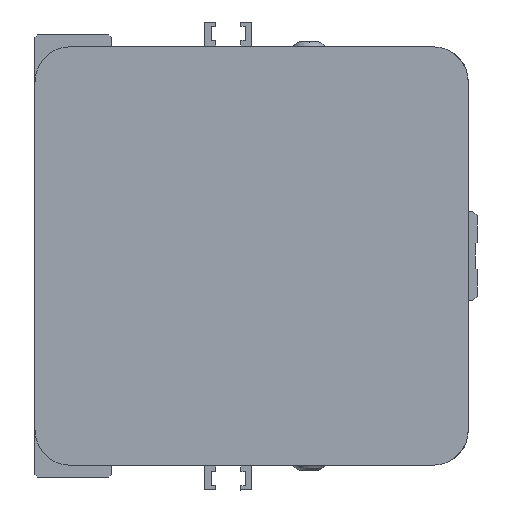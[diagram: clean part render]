
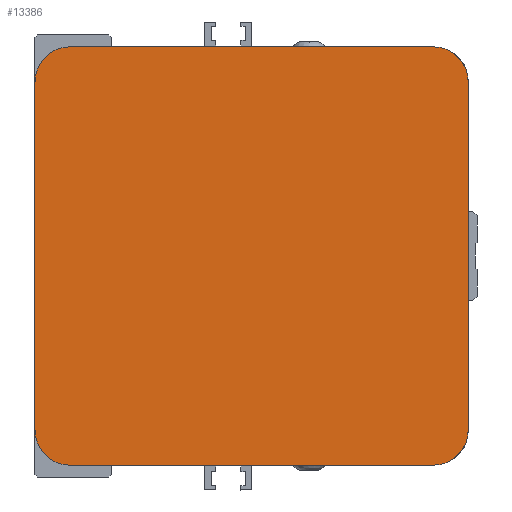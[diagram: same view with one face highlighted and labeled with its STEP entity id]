
A CAD part, left-side view. The second image highlights one B-rep face of the part: STEP entity #13386.
In plain terms, the highlighted planar face has unit normal (-1, 0, 0) as drawn and (0, 0, -1) by its records, which use the part's own axes.
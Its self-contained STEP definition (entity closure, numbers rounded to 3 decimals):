
#956=CIRCLE('',#14319,6.);
#957=CIRCLE('',#14324,6.);
#965=CIRCLE('',#14335,6.);
#966=CIRCLE('',#14337,6.);
#1612=FACE_OUTER_BOUND('',#2419,.T.);
#2419=EDGE_LOOP('',(#9310,#9311,#9312,#9313,#9314,#9315,#9316,#9317));
#3493=LINE('',#18694,#4741);
#3498=LINE('',#18705,#4746);
#3505=LINE('',#18720,#4753);
#3509=LINE('',#18805,#4757);
#4741=VECTOR('',#15465,61.5);
#4746=VECTOR('',#15476,59.);
#4753=VECTOR('',#15493,61.5);
#4757=VECTOR('',#15519,59.);
#5982=VERTEX_POINT('',#18690);
#5984=VERTEX_POINT('',#18693);
#5985=VERTEX_POINT('',#18698);
#5987=VERTEX_POINT('',#18704);
#5989=VERTEX_POINT('',#18715);
#5990=VERTEX_POINT('',#18719);
#5999=VERTEX_POINT('',#18800);
#6000=VERTEX_POINT('',#18804);
#7325=EDGE_CURVE('',#5984,#5982,#3493,.T.);
#7328=EDGE_CURVE('',#5984,#5985,#956,.T.);
#7331=EDGE_CURVE('',#5987,#5985,#3498,.T.);
#7337=EDGE_CURVE('',#5987,#5989,#957,.T.);
#7339=EDGE_CURVE('',#5990,#5989,#3505,.T.);
#7352=EDGE_CURVE('',#5999,#5982,#965,.T.);
#7353=EDGE_CURVE('',#5999,#6000,#3509,.T.);
#7354=EDGE_CURVE('',#5990,#6000,#966,.T.);
#9310=ORIENTED_EDGE('',*,*,#7337,.F.);
#9311=ORIENTED_EDGE('',*,*,#7331,.T.);
#9312=ORIENTED_EDGE('',*,*,#7328,.F.);
#9313=ORIENTED_EDGE('',*,*,#7325,.T.);
#9314=ORIENTED_EDGE('',*,*,#7352,.F.);
#9315=ORIENTED_EDGE('',*,*,#7353,.T.);
#9316=ORIENTED_EDGE('',*,*,#7354,.F.);
#9317=ORIENTED_EDGE('',*,*,#7339,.T.);
#12889=PLANE('',#14336);
#13386=ADVANCED_FACE('',(#1612),#12889,.F.);
#14319=AXIS2_PLACEMENT_3D('',#18699,#15470,#15471);
#14324=AXIS2_PLACEMENT_3D('',#18716,#15488,#15489);
#14335=AXIS2_PLACEMENT_3D('',#18802,#15515,#15516);
#14336=AXIS2_PLACEMENT_3D('',#18803,#15517,#15518);
#14337=AXIS2_PLACEMENT_3D('',#18806,#15520,#15521);
#15465=DIRECTION('',(0.,-1.,0.));
#15470=DIRECTION('center_axis',(0.,0.,
1.));
#15471=DIRECTION('ref_axis',(0.707,0.707,0.));
#15476=DIRECTION('',(1.,0.,0.));
#15488=DIRECTION('center_axis',(0.,0.,
1.));
#15489=DIRECTION('ref_axis',(-0.707,0.707,0.));
#15493=DIRECTION('',(0.,1.,0.));
#15515=DIRECTION('center_axis',(0.,0.,
1.));
#15516=DIRECTION('ref_axis',(0.707,-0.707,0.));
#15517=DIRECTION('center_axis',(0.,0.,
1.));
#15518=DIRECTION('ref_axis',(1.,0.,0.));
#15519=DIRECTION('',(-1.,0.,0.));
#15520=DIRECTION('center_axis',(0.,0.,
1.));
#15521=DIRECTION('ref_axis',(-0.707,-0.707,0.));
#18690=CARTESIAN_POINT('',(75.2,7.5,-257.));
#18693=CARTESIAN_POINT('',(75.2,69.,-257.));
#18694=CARTESIAN_POINT('',(75.2,69.,-257.));
#18698=CARTESIAN_POINT('',(69.2,75.,-257.));
#18699=CARTESIAN_POINT('Origin',(69.2,69.,-257.));
#18704=CARTESIAN_POINT('',(10.2,75.,-257.));
#18705=CARTESIAN_POINT('',(10.2,75.,-257.));
#18715=CARTESIAN_POINT('',(4.2,69.,-257.));
#18716=CARTESIAN_POINT('Origin',(10.2,69.,-257.));
#18719=CARTESIAN_POINT('',(4.2,7.5,-257.));
#18720=CARTESIAN_POINT('',(4.2,7.5,-257.));
#18800=CARTESIAN_POINT('',(69.2,1.5,-257.));
#18802=CARTESIAN_POINT('Origin',(69.2,7.5,-257.));
#18803=CARTESIAN_POINT('Origin',(39.7,38.25,-257.));
#18804=CARTESIAN_POINT('',(10.2,1.5,-257.));
#18805=CARTESIAN_POINT('',(69.2,1.5,-257.));
#18806=CARTESIAN_POINT('Origin',(10.2,7.5,-257.));
